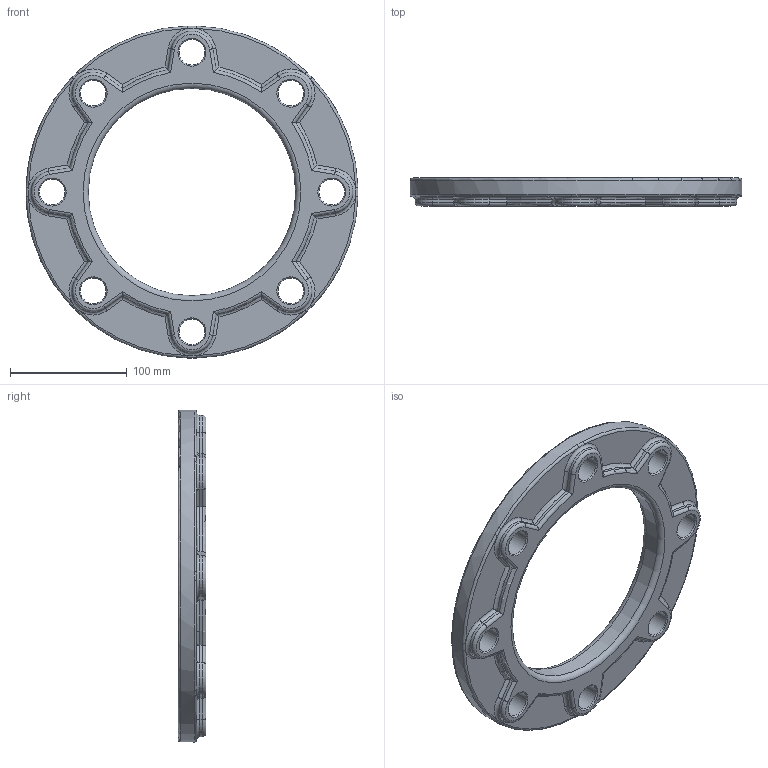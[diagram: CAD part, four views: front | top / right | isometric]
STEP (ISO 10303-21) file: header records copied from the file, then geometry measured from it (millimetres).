
FILE_DESCRIPTION(/* description */ ('Unknown'),/* implementation_level */ '2;1');
FILE_NAME(/* name */ 'FA160B',/* time_stamp */ '2022-07-19T12:02:01+02:00',/* author */ ('Unknown'),/* organization */ ('Unknown'),/* preprocessor_version */ 'ST-DEVELOPER v18.102',/* originating_system */ 'Solid Edge',/* authorisation */ 'Unknown');
FILE_SCHEMA (('AUTOMOTIVE_DESIGN {1 0 10303 214 3 1 1}'));
Length unit declared in the file: millimetre
Products named in the file (1): FA160B
Bounding box: 284.95 x 24 x 284.96 mm (x, y, z)
Volume: 695805.1 mm3; surface area: 113926.4 mm2
Topology: 1 solids, 1 shells, 151 faces, 372 edges, 223 vertices
Faces by surface type: cylinder 58, torus 43, plane 26, cone 16, bspline 8
Full cylindrical faces by diameter (mm): 22 x8, 178 x1, 285 x1
Entity records: 4272 total; most frequent: CARTESIAN_POINT 932, DIRECTION 732, ORIENTED_EDGE 636, EDGE_CURVE 318, AXIS2_PLACEMENT_3D 318, VERTEX_POINT 198, EDGE_LOOP 198, FACE_BOUND 198
